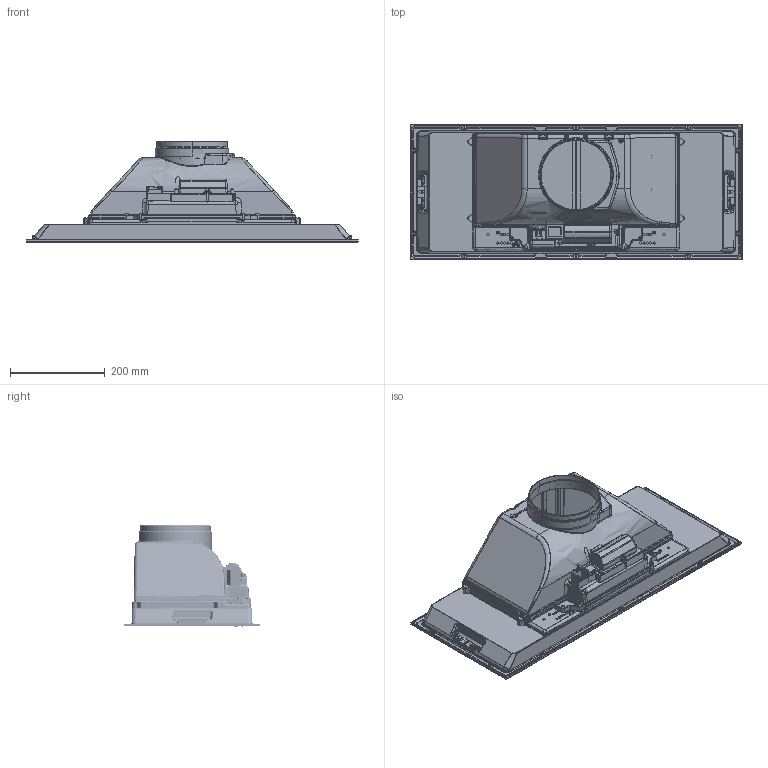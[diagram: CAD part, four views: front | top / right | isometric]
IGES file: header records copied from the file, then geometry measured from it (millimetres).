
Global section: file name: F:\_CONVERSIONE_CAD_2024_2025\03_3D kits new\07_Hoods\Solo Logo Piatto o 3D\3D001_Hoods_Buit-In_FBI-705\3D001_Hoods_Buit-In_FBI-705.igs; native system: Rhinoceros ( Jan  9 2024 ); preprocessor: Trout Lake IGES 012 Jan  9 2024; date: 240212.092213; units: millimetre
Bounding box: 702 x 286 x 214.04 mm (x, y, z)
Surface area: 1440885.2 mm2 (no closed solid volume)
Topology: 0 solids, 0 shells, 9069 faces, 58791 edges, 58780 vertices
Faces by surface type: bspline 9069
